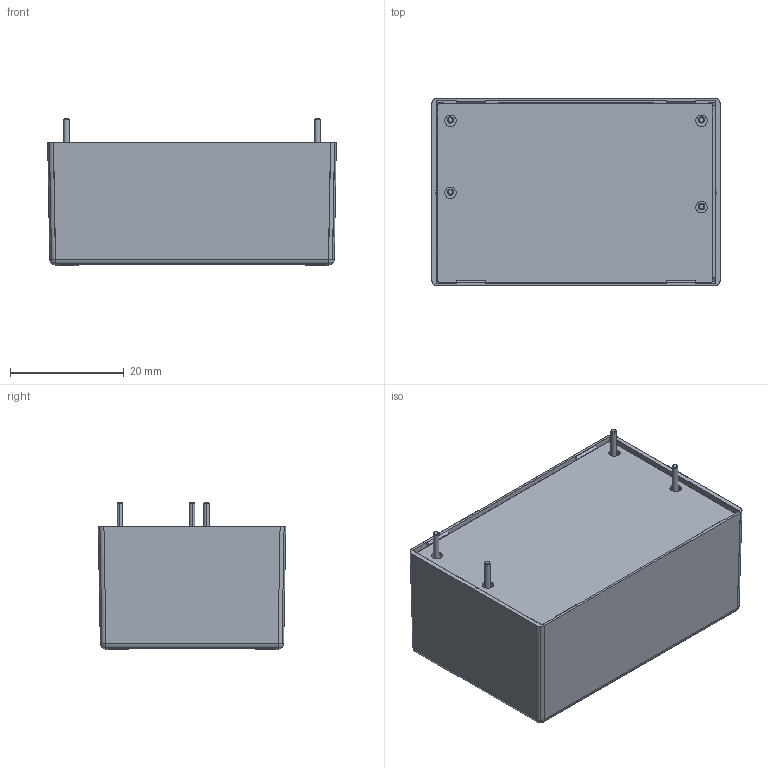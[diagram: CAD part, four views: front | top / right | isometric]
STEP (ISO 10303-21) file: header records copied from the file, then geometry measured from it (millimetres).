
FILE_DESCRIPTION((''),'2;1');
FILE_NAME('C:\Users\yaginuma\Documents\TRACO　STEPデータ送付関係\TMT10\TMT10_Assembly.stp','2012-05-14T18:28:20',('yaginuma'),(''),'Autodesk Inventor 9','Autodesk Inventor 9','');
FILE_SCHEMA(('AUTOMOTIVE_DESIGN { 1 0 10303 214 1 1 1 1 }'));
Length unit declared in the file: millimetre
Products named in the file (7): TMT10_Assembly; 上ケース; 基板; 下ケース絶縁板; ピン; サブ基板; ラベル
Assembly tree (10 placements, depth 2):
  TMT10_Assembly
    上ケース  x2
    基板
    下ケース絶縁板
    ピン  x4
    サブ基板
    ラベル
Bounding box: 50.83 x 33.02 x 25.9 mm (x, y, z)
Volume: 10538.2 mm3; surface area: 30482.5 mm2
Topology: 10 solids, 10 shells, 881 faces, 2320 edges, 1498 vertices
Faces by surface type: plane 438, cylinder 247, bspline 164, cone 20, sphere 12
Entity records: 15168 total; most frequent: CARTESIAN_POINT 3561, ORIENTED_EDGE 2474, DIRECTION 2181, EDGE_CURVE 1237, VERTEX_POINT 807, VECTOR 799, LINE 799, AXIS2_PLACEMENT_3D 691
